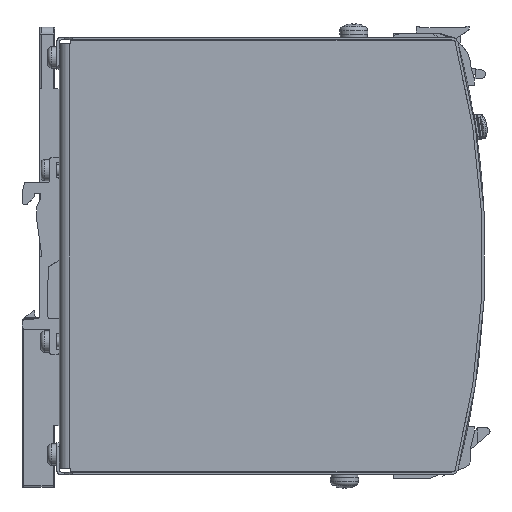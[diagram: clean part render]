
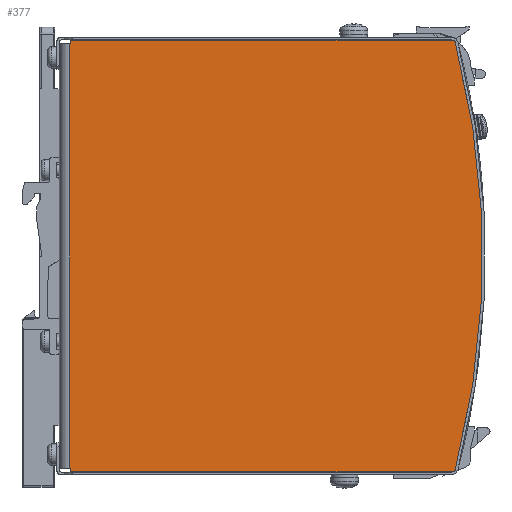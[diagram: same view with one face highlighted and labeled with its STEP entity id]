
A CAD part, front view. The second image highlights one B-rep face of the part: STEP entity #377.
In plain terms, the highlighted planar face has unit normal (0, -1, 0).
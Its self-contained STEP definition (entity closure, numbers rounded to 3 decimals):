
#236=CARTESIAN_POINT('',(112.177,-41.,-60.777));
#237=VERTEX_POINT('',#236);
#238=CARTESIAN_POINT('',(111.693,-41.,-61.15));
#239=VERTEX_POINT('',#238);
#240=CARTESIAN_POINT('',(111.693,-41.,-60.65));
#241=DIRECTION('',(0.0,1.0,0.0));
#242=DIRECTION('',(0.611,0.0,-0.792));
#243=AXIS2_PLACEMENT_3D('',#240,#241,#242);
#244=CIRCLE('',#243,0.5);
#245=EDGE_CURVE('',#237,#239,#244,.T.);
#279=CARTESIAN_POINT('',(3.1,-41.0,-61.15));
#280=VERTEX_POINT('',#279);
#281=CARTESIAN_POINT('',(111.693,-41.,-61.15));
#282=DIRECTION('',(-1.0,0.0,0.0));
#283=VECTOR('',#282,108.593);
#284=LINE('',#281,#283);
#285=EDGE_CURVE('',#239,#280,#284,.T.);
#304=CARTESIAN_POINT('',(130.,-41.,-61.15));
#305=DIRECTION('',(0.0,-1.0,0.0));
#306=DIRECTION('',(0.0,0.0,-1.0));
#307=AXIS2_PLACEMENT_3D('',#304,#305,#306);
#308=PLANE('',#307);
#309=ORIENTED_EDGE('',*,*,#245,.F.);
#310=CARTESIAN_POINT('',(112.177,-41.,60.777));
#311=VERTEX_POINT('',#310);
#312=CARTESIAN_POINT('',(-120.,-41.,0.));
#313=DIRECTION('',(0.0,-1.,0.0));
#314=DIRECTION('',(-0.967,0.0,-0.255));
#315=AXIS2_PLACEMENT_3D('',#312,#313,#314);
#316=CIRCLE('',#315,240.0);
#317=EDGE_CURVE('',#237,#311,#316,.T.);
#318=ORIENTED_EDGE('',*,*,#317,.T.);
#319=CARTESIAN_POINT('',(111.693,-41.,61.15));
#320=VERTEX_POINT('',#319);
#321=CARTESIAN_POINT('',(111.693,-41.,60.65));
#322=DIRECTION('',(0.0,1.0,0.0));
#323=DIRECTION('',(0.611,0.0,0.792));
#324=AXIS2_PLACEMENT_3D('',#321,#322,#323);
#325=CIRCLE('',#324,0.5);
#326=EDGE_CURVE('',#320,#311,#325,.T.);
#327=ORIENTED_EDGE('',*,*,#326,.F.);
#328=CARTESIAN_POINT('',(3.1,-41.0,61.15));
#329=VERTEX_POINT('',#328);
#330=CARTESIAN_POINT('',(111.693,-41.,61.15));
#331=DIRECTION('',(-1.0,0.0,0.0));
#332=VECTOR('',#331,108.593);
#333=LINE('',#330,#332);
#334=EDGE_CURVE('',#320,#329,#333,.T.);
#335=ORIENTED_EDGE('',*,*,#334,.T.);
#336=CARTESIAN_POINT('',(3.1,-41.0,60.15));
#337=VERTEX_POINT('',#336);
#338=CARTESIAN_POINT('',(3.1,-41.0,61.15));
#339=DIRECTION('',(0.0,0.0,-1.0));
#340=VECTOR('',#339,1.);
#341=LINE('',#338,#340);
#342=EDGE_CURVE('',#329,#337,#341,.T.);
#343=ORIENTED_EDGE('',*,*,#342,.T.);
#344=CARTESIAN_POINT('',(3.,-41.0,60.15));
#345=VERTEX_POINT('',#344);
#346=CARTESIAN_POINT('',(3.1,-41.0,60.15));
#347=DIRECTION('',(-1.0,0.0,0.0));
#348=VECTOR('',#347,0.1);
#349=LINE('',#346,#348);
#350=EDGE_CURVE('',#337,#345,#349,.T.);
#351=ORIENTED_EDGE('',*,*,#350,.T.);
#352=CARTESIAN_POINT('',(3.,-41.0,-60.15));
#353=VERTEX_POINT('',#352);
#354=CARTESIAN_POINT('',(3.,-41.0,60.15));
#355=DIRECTION('',(0.0,0.0,-1.0));
#356=VECTOR('',#355,120.3);
#357=LINE('',#354,#356);
#358=EDGE_CURVE('',#345,#353,#357,.T.);
#359=ORIENTED_EDGE('',*,*,#358,.T.);
#360=CARTESIAN_POINT('',(3.1,-41.0,-60.15));
#361=VERTEX_POINT('',#360);
#362=CARTESIAN_POINT('',(3.,-41.0,-60.15));
#363=DIRECTION('',(1.0,0.0,0.0));
#364=VECTOR('',#363,0.1);
#365=LINE('',#362,#364);
#366=EDGE_CURVE('',#353,#361,#365,.T.);
#367=ORIENTED_EDGE('',*,*,#366,.T.);
#368=CARTESIAN_POINT('',(3.1,-41.0,-60.15));
#369=DIRECTION('',(0.0,0.0,-1.0));
#370=VECTOR('',#369,1.0);
#371=LINE('',#368,#370);
#372=EDGE_CURVE('',#361,#280,#371,.T.);
#373=ORIENTED_EDGE('',*,*,#372,.T.);
#374=ORIENTED_EDGE('',*,*,#285,.F.);
#375=EDGE_LOOP('',(#309,#318,#327,#335,#343,#351,#359,#367,#373,#374));
#376=FACE_OUTER_BOUND('',#375,.T.);
#377=ADVANCED_FACE('',(#376),#308,.T.);
